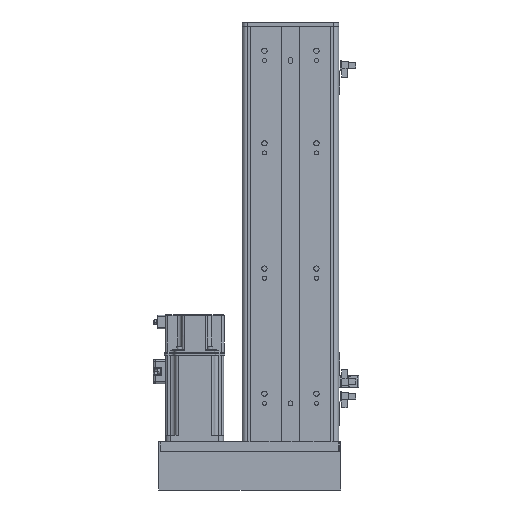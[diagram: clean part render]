
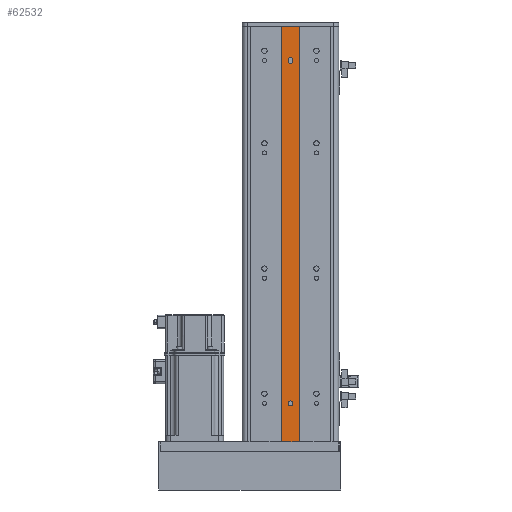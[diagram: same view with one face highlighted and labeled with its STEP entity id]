
A CAD part, front view. The second image highlights one B-rep face of the part: STEP entity #62532.
In plain terms, the highlighted planar face has unit normal (0, -1, 0).
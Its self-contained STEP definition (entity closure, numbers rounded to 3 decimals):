
#890 = EDGE_CURVE ( 'NONE', #9572, #15947, #20527, .T. ) ;
#2863 = LINE ( 'NONE', #55330, #3664 ) ;
#3664 = VECTOR ( 'NONE', #13022, 1000. ) ;
#5557 = DIRECTION ( 'NONE',  ( 0., 0., -1. ) ) ;
#5700 = DIRECTION ( 'NONE',  ( 0., 0., 1. ) ) ;
#6056 = CARTESIAN_POINT ( 'NONE',  ( 9., 1.309, 561. ) ) ;
#7538 = EDGE_CURVE ( 'NONE', #15947, #15810, #33325, .T. ) ;
#7772 = CARTESIAN_POINT ( 'NONE',  ( 9., 1.309, 130. ) ) ;
#8261 = VERTEX_POINT ( 'NONE', #66026 ) ;
#8994 = VECTOR ( 'NONE', #22702, 1000. ) ;
#9430 = CARTESIAN_POINT ( 'NONE',  ( -9., 1.309, 561. ) ) ;
#9572 = VERTEX_POINT ( 'NONE', #61617 ) ;
#10180 = FACE_BOUND ( 'NONE', #25561, .T. ) ;
#10333 = DIRECTION ( 'NONE',  ( -1., 0., 0. ) ) ;
#10477 = CARTESIAN_POINT ( 'NONE',  ( 2.5, 1.309, 170. ) ) ;
#11036 = VERTEX_POINT ( 'NONE', #63531 ) ;
#12166 = AXIS2_PLACEMENT_3D ( 'NONE', #37925, #37701, #63983 ) ;
#12200 = AXIS2_PLACEMENT_3D ( 'NONE', #15970, #53237, #5700 ) ;
#13022 = DIRECTION ( 'NONE',  ( 0., 0., -1. ) ) ;
#13102 = LINE ( 'NONE', #51765, #18051 ) ;
#14693 = VECTOR ( 'NONE', #23981, 1000. ) ;
#15810 = VERTEX_POINT ( 'NONE', #53069 ) ;
#15947 = VERTEX_POINT ( 'NONE', #42926 ) ;
#15970 = CARTESIAN_POINT ( 'NONE',  ( 0., 1.309, 525.5 ) ) ;
#16246 = AXIS2_PLACEMENT_3D ( 'NONE', #27365, #37984, #26707 ) ;
#17218 = ORIENTED_EDGE ( 'NONE', *, *, #33117, .T. ) ;
#18051 = VECTOR ( 'NONE', #10333, 1000. ) ;
#19549 = DIRECTION ( 'NONE',  ( 1., 0., 0. ) ) ;
#19694 = ORIENTED_EDGE ( 'NONE', *, *, #53029, .F. ) ;
#20376 = CIRCLE ( 'NONE', #43371, 2.5 ) ;
#20527 = LINE ( 'NONE', #58366, #8994 ) ;
#22702 = DIRECTION ( 'NONE',  ( 0., 0., -1. ) ) ;
#23525 = CARTESIAN_POINT ( 'NONE',  ( -2.5, 1.309, 561. ) ) ;
#23680 = EDGE_CURVE ( 'NONE', #8261, #60264, #59505, .T. ) ;
#23946 = CIRCLE ( 'NONE', #40771, 2.5 ) ;
#23981 = DIRECTION ( 'NONE',  ( 0., 0., 1. ) ) ;
#24100 = DIRECTION ( 'NONE',  ( 0., 1., 0. ) ) ;
#25561 = EDGE_LOOP ( 'NONE', ( #55956, #17218 ) ) ;
#26026 = DIRECTION ( 'NONE',  ( 0., 0., 1. ) ) ;
#26075 = EDGE_CURVE ( 'NONE', #38984, #38778, #13102, .T. ) ;
#26707 = DIRECTION ( 'NONE',  ( 0., 0., 1. ) ) ;
#27365 = CARTESIAN_POINT ( 'NONE',  ( 0., 1.309, 526.5 ) ) ;
#28928 = CARTESIAN_POINT ( 'NONE',  ( -2.5, 1.309, 526.5 ) ) ;
#29363 = CARTESIAN_POINT ( 'NONE',  ( 0., 1.309, 170. ) ) ;
#29839 = VECTOR ( 'NONE', #19549, 1000. ) ;
#32615 = PLANE ( 'NONE',  #12166 ) ;
#33117 = EDGE_CURVE ( 'NONE', #11036, #67160, #20376, .T. ) ;
#33325 = CIRCLE ( 'NONE', #12200, 2.5 ) ;
#33709 = VERTEX_POINT ( 'NONE', #28928 ) ;
#34434 = EDGE_CURVE ( 'NONE', #15810, #33709, #56649, .T. ) ;
#34859 = FACE_BOUND ( 'NONE', #52705, .T. ) ;
#35002 = ORIENTED_EDGE ( 'NONE', *, *, #26075, .F. ) ;
#37295 = EDGE_CURVE ( 'NONE', #33709, #9572, #64592, .T. ) ;
#37701 = DIRECTION ( 'NONE',  ( 0., 1., 0. ) ) ;
#37925 = CARTESIAN_POINT ( 'NONE',  ( 0., 1.309, 561. ) ) ;
#37984 = DIRECTION ( 'NONE',  ( 0., 1., 0. ) ) ;
#38778 = VERTEX_POINT ( 'NONE', #64157 ) ;
#38984 = VERTEX_POINT ( 'NONE', #7772 ) ;
#40771 = AXIS2_PLACEMENT_3D ( 'NONE', #29363, #24100, #51264 ) ;
#40929 = ORIENTED_EDGE ( 'NONE', *, *, #34434, .T. ) ;
#41922 = CARTESIAN_POINT ( 'NONE',  ( 0., 1.309, 170. ) ) ;
#42151 = EDGE_CURVE ( 'NONE', #67160, #11036, #23946, .T. ) ;
#42926 = CARTESIAN_POINT ( 'NONE',  ( 2.5, 1.309, 525.5 ) ) ;
#43371 = AXIS2_PLACEMENT_3D ( 'NONE', #41922, #52062, #26026 ) ;
#44792 = ORIENTED_EDGE ( 'NONE', *, *, #52824, .T. ) ;
#45512 = EDGE_LOOP ( 'NONE', ( #35002, #19694, #57058, #44792 ) ) ;
#50247 = ORIENTED_EDGE ( 'NONE', *, *, #7538, .T. ) ;
#51264 = DIRECTION ( 'NONE',  ( 0., 0., 1. ) ) ;
#51765 = CARTESIAN_POINT ( 'NONE',  ( 0., 1.309, 130. ) ) ;
#52062 = DIRECTION ( 'NONE',  ( 0., 1., 0. ) ) ;
#52705 = EDGE_LOOP ( 'NONE', ( #40929, #68249, #55737, #50247 ) ) ;
#52824 = EDGE_CURVE ( 'NONE', #8261, #38778, #61298, .T. ) ;
#52865 = CARTESIAN_POINT ( 'NONE',  ( -9., 1.309, 561. ) ) ;
#53029 = EDGE_CURVE ( 'NONE', #60264, #38984, #2863, .T. ) ;
#53069 = CARTESIAN_POINT ( 'NONE',  ( -2.5, 1.309, 525.5 ) ) ;
#53237 = DIRECTION ( 'NONE',  ( 0., 1., 0. ) ) ;
#53874 = VECTOR ( 'NONE', #5557, 1000. ) ;
#55330 = CARTESIAN_POINT ( 'NONE',  ( 9., 1.309, 561. ) ) ;
#55737 = ORIENTED_EDGE ( 'NONE', *, *, #890, .T. ) ;
#55956 = ORIENTED_EDGE ( 'NONE', *, *, #42151, .T. ) ;
#56649 = LINE ( 'NONE', #23525, #14693 ) ;
#57058 = ORIENTED_EDGE ( 'NONE', *, *, #23680, .F. ) ;
#57891 = FACE_OUTER_BOUND ( 'NONE', #45512, .T. ) ;
#58366 = CARTESIAN_POINT ( 'NONE',  ( 2.5, 1.309, 561. ) ) ;
#59505 = LINE ( 'NONE', #9430, #29839 ) ;
#60264 = VERTEX_POINT ( 'NONE', #6056 ) ;
#61298 = LINE ( 'NONE', #52865, #53874 ) ;
#61617 = CARTESIAN_POINT ( 'NONE',  ( 2.5, 1.309, 526.5 ) ) ;
#62532 = ADVANCED_FACE ( 'NONE', ( #34859, #10180, #57891 ), #32615, .F. ) ;
#63531 = CARTESIAN_POINT ( 'NONE',  ( -2.5, 1.309, 170. ) ) ;
#63983 = DIRECTION ( 'NONE',  ( 0., 0., 1. ) ) ;
#64157 = CARTESIAN_POINT ( 'NONE',  ( -9., 1.309, 130. ) ) ;
#64592 = CIRCLE ( 'NONE', #16246, 2.5 ) ;
#66026 = CARTESIAN_POINT ( 'NONE',  ( -9., 1.309, 561. ) ) ;
#67160 = VERTEX_POINT ( 'NONE', #10477 ) ;
#68249 = ORIENTED_EDGE ( 'NONE', *, *, #37295, .T. ) ;
